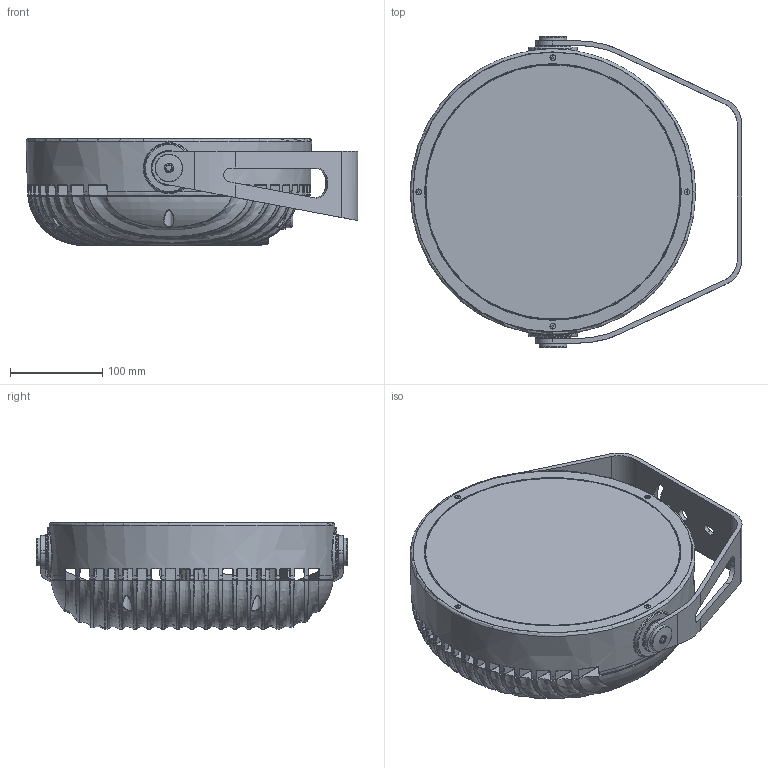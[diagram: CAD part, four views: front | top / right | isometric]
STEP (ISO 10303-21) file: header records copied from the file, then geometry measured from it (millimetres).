
FILE_DESCRIPTION(/* description */ ('Unknown'),/* implementation_level */ '2;1');
FILE_NAME(/* name */ 'Calumma-L_',/* time_stamp */ '2022-09-30T09:24:55+02:00',/* author */ ('Unknown'),/* organization */ ('Unknown'),/* preprocessor_version */ 'ST-DEVELOPER v18.102',/* originating_system */ 'Solid Edge',/* authorisation */ 'Unknown');
FILE_SCHEMA (('AUTOMOTIVE_DESIGN {1 0 10303 214 3 1 1}'));
Products named in the file (1): Calumma-L
Bounding box: 359.92 x 338.4 x 116 mm (x, y, z)
Volume: 7101125.4 mm3; surface area: 600195.8 mm2
Topology: 7 solids, 13 shells, 1627 faces, 3924 edges, 2188 vertices
Faces by surface type: cylinder 508, torus 370, plane 331, bspline 203, sphere 128, cone 87
Full cylindrical faces by diameter (mm): 3 x4, 3.242 x4, 3.6 x4, 5 x6, 6 x8, 6.049 x1, 6.084 x1, 7.4 x1, 8.5 x6, 13 x1, 13.2 x2, 16 x2, 17 x1, 20 x4, 23.5 x4, 30 x4, 277 x1, 278.6 x1, 284 x1, 303.4 x1, 304 x1
Entity records: 92534 total; most frequent: CARTESIAN_POINT 50258, ORIENTED_EDGE 7006, DIRECTION 5773, EDGE_CURVE 3503, AXIS2_PLACEMENT_3D 2523, VERTEX_POINT 2107, FACE_BOUND 1874, EDGE_LOOP 1863
